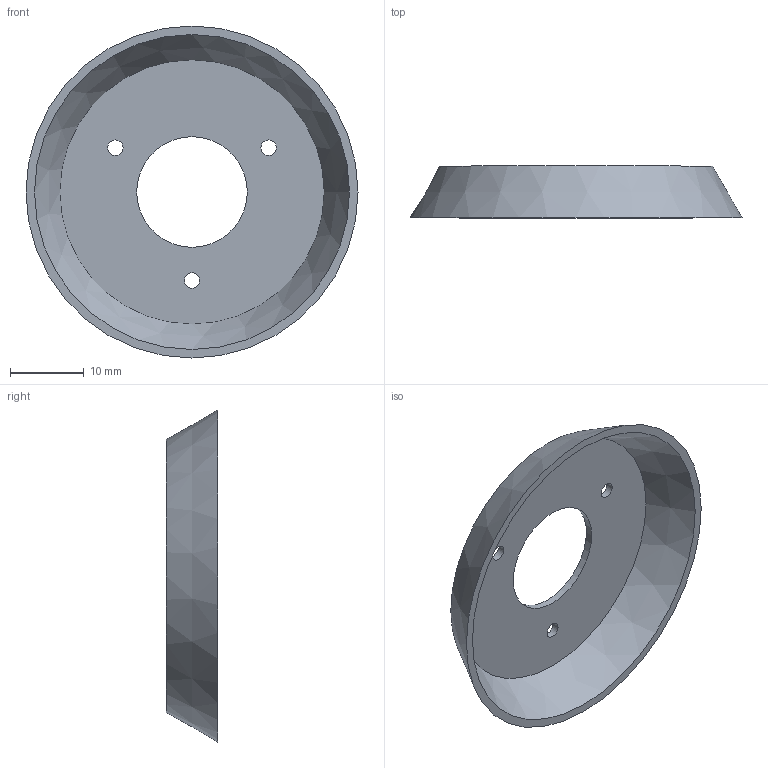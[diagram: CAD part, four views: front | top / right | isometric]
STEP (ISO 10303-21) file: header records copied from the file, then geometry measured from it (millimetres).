
FILE_DESCRIPTION( ( 'STEP AP203' ), '1' );
FILE_NAME( 'C:/Temp/Ganter_Step_05_03_2020/data/1_4/gn_526_1/gn_526_1_b/Scale ring GN 526.1-45-B.stp', '2020-03-05T10:48:53', ( 'License CC BY-ND 4.0' ), ( 'CADENAS' ), ' ', 'PARTsolutions', ' ' );
FILE_SCHEMA( ( 'CONFIG_CONTROL_DESIGN' ) );
Length unit declared in the file: millimetre
Products named in the file (1): _Scale ring GN 526.1-45-B
Bounding box: 45 x 7 x 45 mm (x, y, z)
Volume: 1799.2 mm3; surface area: 3826.4 mm2
Topology: 1 solids, 1 shells, 9 faces, 21 edges, 15 vertices
Faces by surface type: cylinder 4, plane 3, cone 2
Full cylindrical faces by diameter (mm): 2.1 x3, 15 x1
Entity records: 274 total; most frequent: DIRECTION 44, CARTESIAN_POINT 34, EDGE_LOOP 24, ORIENTED_EDGE 24, AXIS2_PLACEMENT_3D 22, FACE_OUTER_BOUND 13, EDGE_CURVE 12, VERTEX_POINT 12
